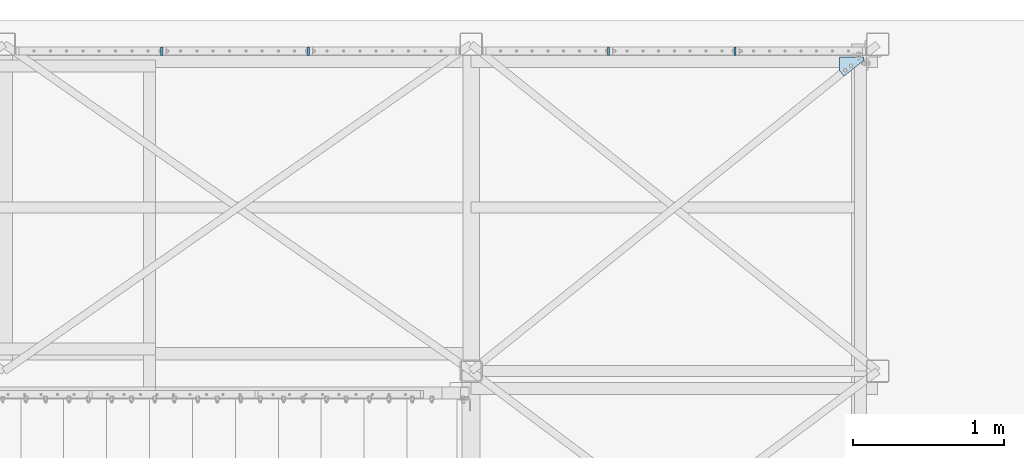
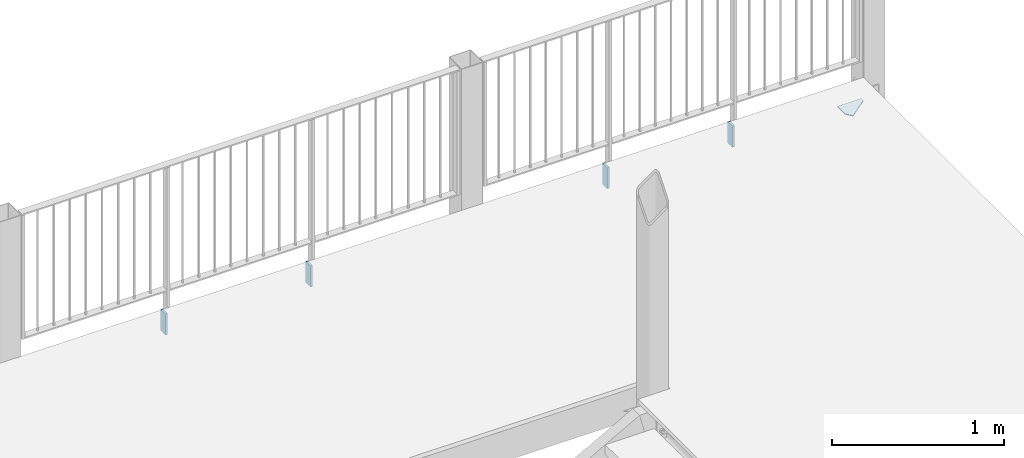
# One storey, part 64 of 78: 5 plates, 2 elements without a shape of their own.
"""IFC2X3 building model written with IfcOpenShell, lengths in millimetres."""

from ifc_helpers import new_model, si_unit, frame, origin_with_axes, place, context, subcontext, project, spatial, polyline, outline, extrude, material, type_object, element, aggregate, save


model = new_model("IFC2X3")

# Units and contexts
model_context = context("Model", 3, precision=1e-05, world=origin_with_axes())
body_context = subcontext(model_context, "Body", "Model", "MODEL_VIEW")
ifc_project = project(units=[si_unit("LENGTHUNIT", "METRE", prefix="MILLI"), si_unit("AREAUNIT", "SQUARE_METRE"), si_unit("VOLUMEUNIT", "CUBIC_METRE"), si_unit("MASSUNIT", "GRAM", prefix="KILO"), si_unit("TIMEUNIT", "SECOND"), si_unit("PLANEANGLEUNIT", "RADIAN"), si_unit("SOLIDANGLEUNIT", "STERADIAN"), si_unit("THERMODYNAMICTEMPERATUREUNIT", "DEGREE_CELSIUS"), si_unit("LUMINOUSINTENSITYUNIT", "LUMEN")], contexts=[model_context])

# Site, building, storey
site_placement = place(None, origin_with_axes())
site = spatial("IfcSite", under=ifc_project, at=site_placement, Name="Site", CompositionType="ELEMENT")
building_placement = place(site_placement, origin_with_axes())
building = spatial("IfcBuilding", under=site, at=building_placement, Name="Undefined", CompositionType="ELEMENT")
storey_placement = place(building_placement, origin_with_axes())
storey = spatial("IfcBuildingStorey", under=building, at=storey_placement, Name="Undefined", CompositionType="ELEMENT", Elevation=0.0)

# Assembly, plates
assembly_1_placement = place(storey_placement, origin_with_axes())
assembly_1 = element("IfcElementAssembly", 1, at=assembly_1_placement, inside=storey, Name="POUTRE", AssemblyPlace="NOTDEFINED", PredefinedType="RIGID_FRAME")
ifc_material = material(Name="STEEL/S235JR")
plate_type_1 = type_object("IfcPlateType", Name="PL15*150", PredefinedType="NOTDEFINED")
plate_1_placement = place(assembly_1_placement, frame((2411.07000000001, 32843.0, 156585.04), z_axis=(1.0, 0.0, 0.0), x_axis=(0.0, 1.0, 0.0)))
plate_1 = element("IfcPlate", 2, at=plate_1_placement, type_object=plate_type_1, material=ifc_material, Name="PLATINE", ObjectType="PL15*150", context=body_context, shape_type="SweptSolid", body=[
    extrude(outline(polyline([(0.0, -75.0), (0.0, 75.0), (54.9999999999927, 75.0), (54.9999999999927, -75.0), (0.0, -75.0)])), frame((0.0, 0.0, -7.5), z_axis=(0.0, 0.0, 1.0), x_axis=(1.0, 0.0, 0.0)), (0.0, 0.0, 1.0), 15.0),
])
plate_2_placement = place(assembly_1_placement, frame((3251.07, 32843.0, 156585.04), z_axis=(1.0, 0.0, 0.0), x_axis=(0.0, 1.0, 0.0)))
plate_2 = element("IfcPlate", 3, at=plate_2_placement, type_object=plate_type_1, material=ifc_material, Name="PLATINE", ObjectType="PL15*150", context=body_context, shape_type="SweptSolid", body=[
    extrude(outline(polyline([(0.0, -75.0), (0.0, 75.0), (54.9999999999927, 75.0), (54.9999999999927, -75.0), (0.0, -75.0)])), frame((0.0, 0.0, -7.5), z_axis=(0.0, 0.0, 1.0), x_axis=(1.0, 0.0, 0.0)), (0.0, 0.0, 1.0), 15.0),
])

assembly_2_placement = place(storey_placement, origin_with_axes())
assembly_2 = element("IfcElementAssembly", 4, at=assembly_2_placement, inside=storey, Name="POUTRE", AssemblyPlace="NOTDEFINED", PredefinedType="RIGID_FRAME")
plate_3_placement = place(assembly_2_placement, frame((-555.596666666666, 32843.0, 156585.04), z_axis=(1.0, 0.0, 0.0), x_axis=(0.0, 1.0, 0.0)))
plate_3 = element("IfcPlate", 5, at=plate_3_placement, type_object=plate_type_1, material=ifc_material, Name="PLATINE", ObjectType="PL15*150", context=body_context, shape_type="SweptSolid", body=[
    extrude(outline(polyline([(0.0, -75.0), (0.0, 75.0), (54.9999999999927, 75.0), (54.9999999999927, -75.0), (0.0, -75.0)])), frame((0.0, 0.0, -7.5), z_axis=(0.0, 0.0, 1.0), x_axis=(1.0, 0.0, 0.0)), (0.0, 0.0, 1.0), 15.0),
])
plate_4_placement = place(assembly_2_placement, frame((417.736666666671, 32843.0, 156585.04), z_axis=(1.0, 0.0, 0.0), x_axis=(0.0, 1.0, 0.0)))
plate_4 = element("IfcPlate", 6, at=plate_4_placement, type_object=plate_type_1, material=ifc_material, Name="PLATINE", ObjectType="PL15*150", context=body_context, shape_type="SweptSolid", body=[
    extrude(outline(polyline([(0.0, -75.0), (0.0, 75.0), (54.9999999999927, 75.0), (54.9999999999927, -75.0), (0.0, -75.0)])), frame((0.0, 0.0, -7.5), z_axis=(0.0, 0.0, 1.0), x_axis=(1.0, 0.0, 0.0)), (0.0, 0.0, 1.0), 15.0),
])
aggregate(assembly_2, [plate_3, plate_4])

# Plate
plate_type_2 = type_object("IfcPlateType", Name="PL6*119", PredefinedType="NOTDEFINED")
plate_5_placement = place(assembly_1_placement, frame((4103.57, 32834.0, 156560.04), z_axis=(0.0, 0.0, 1.0), x_axis=(-1.0, 0.0, 0.0)))
plate_5 = element("IfcPlate", 7, at=plate_5_placement, type_object=plate_type_2, material=ifc_material, Name="GOUSSET", ObjectType="PL6*119", context=body_context, shape_type="SweptSolid", body=[
    extrude(outline(polyline([(0.0, 0.0), (160.048542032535, 0.0), (160.048542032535, 88.909913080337), (128.72585426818, 127.882842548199), (0.0, 25.0), (0.0, 0.0)])), frame((0.0, 0.0, -3.0), z_axis=(0.0, 0.0, 1.0), x_axis=(1.0, 0.0, 0.0)), (0.0, 0.0, 1.0), 6.0),
])

aggregate(assembly_1, [plate_5, plate_1, plate_2])

save(model, "model.ifc")
